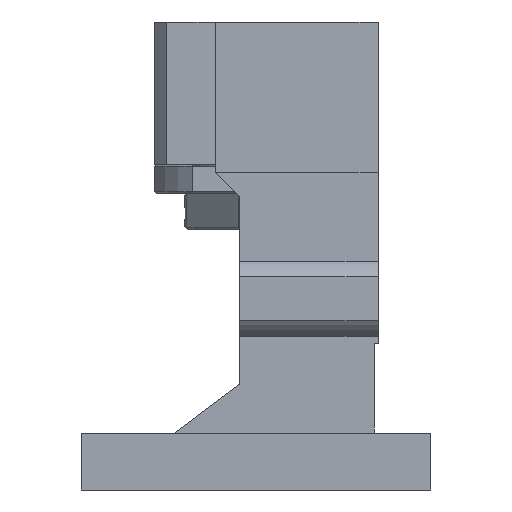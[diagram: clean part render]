
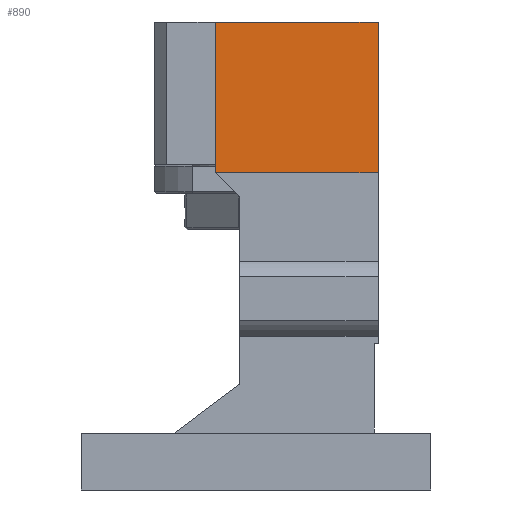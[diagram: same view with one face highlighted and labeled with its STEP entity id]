
A CAD part, left-side view. The second image highlights one B-rep face of the part: STEP entity #890.
In plain terms, the highlighted planar face has unit normal (-1, 0, 0).
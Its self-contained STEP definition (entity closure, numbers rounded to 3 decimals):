
#422 = CARTESIAN_POINT ( 'NONE',  ( -44., 10., -31. ) ) ;
#890 = ADVANCED_FACE ( 'NONE', ( #3401 ), #4977, .T. ) ;
#1451 = ORIENTED_EDGE ( 'NONE', *, *, #4887, .T. ) ;
#1603 = CARTESIAN_POINT ( 'NONE',  ( -44., 10., -31. ) ) ;
#1628 = LINE ( 'NONE', #3408, #7197 ) ;
#1678 = DIRECTION ( 'NONE',  ( 0., 0., 1. ) ) ;
#2026 = VERTEX_POINT ( 'NONE', #3649 ) ;
#2193 = EDGE_CURVE ( 'NONE', #7470, #8008, #6994, .T. ) ;
#2645 = CARTESIAN_POINT ( 'NONE',  ( -44., -30., -31. ) ) ;
#2746 = CARTESIAN_POINT ( 'NONE',  ( -44., 10., 6. ) ) ;
#3147 = LINE ( 'NONE', #2645, #5239 ) ;
#3274 = VECTOR ( 'NONE', #3439, 1000. ) ;
#3401 = FACE_OUTER_BOUND ( 'NONE', #7406, .T. ) ;
#3408 = CARTESIAN_POINT ( 'NONE',  ( -44., 10., -31. ) ) ;
#3439 = DIRECTION ( 'NONE',  ( 0., -1., 0. ) ) ;
#3649 = CARTESIAN_POINT ( 'NONE',  ( -44., -30., -31. ) ) ;
#4006 = DIRECTION ( 'NONE',  ( 0., 0., 1. ) ) ;
#4193 = ORIENTED_EDGE ( 'NONE', *, *, #4561, .F. ) ;
#4205 = EDGE_CURVE ( 'NONE', #7272, #2026, #4981, .T. ) ;
#4561 = EDGE_CURVE ( 'NONE', #7272, #7470, #1628, .T. ) ;
#4887 = EDGE_CURVE ( 'NONE', #2026, #8008, #3147, .T. ) ;
#4951 = CARTESIAN_POINT ( 'NONE',  ( -44., 10., -31. ) ) ;
#4977 = PLANE ( 'NONE',  #8623 ) ;
#4981 = LINE ( 'NONE', #1603, #8696 ) ;
#5160 = DIRECTION ( 'NONE',  ( -1., 0., 0. ) ) ;
#5239 = VECTOR ( 'NONE', #4006, 1000. ) ;
#5685 = CARTESIAN_POINT ( 'NONE',  ( -44., 10., 6. ) ) ;
#6934 = ORIENTED_EDGE ( 'NONE', *, *, #2193, .F. ) ;
#6994 = LINE ( 'NONE', #5685, #3274 ) ;
#7133 = ORIENTED_EDGE ( 'NONE', *, *, #4205, .T. ) ;
#7194 = DIRECTION ( 'NONE',  ( 0., -1., 0. ) ) ;
#7197 = VECTOR ( 'NONE', #8291, 1000. ) ;
#7272 = VERTEX_POINT ( 'NONE', #422 ) ;
#7406 = EDGE_LOOP ( 'NONE', ( #1451, #6934, #4193, #7133 ) ) ;
#7470 = VERTEX_POINT ( 'NONE', #2746 ) ;
#7551 = CARTESIAN_POINT ( 'NONE',  ( -44., -30., 6. ) ) ;
#8008 = VERTEX_POINT ( 'NONE', #7551 ) ;
#8291 = DIRECTION ( 'NONE',  ( 0., 0., 1. ) ) ;
#8623 = AXIS2_PLACEMENT_3D ( 'NONE', #4951, #5160, #1678 ) ;
#8696 = VECTOR ( 'NONE', #7194, 1000. ) ;
